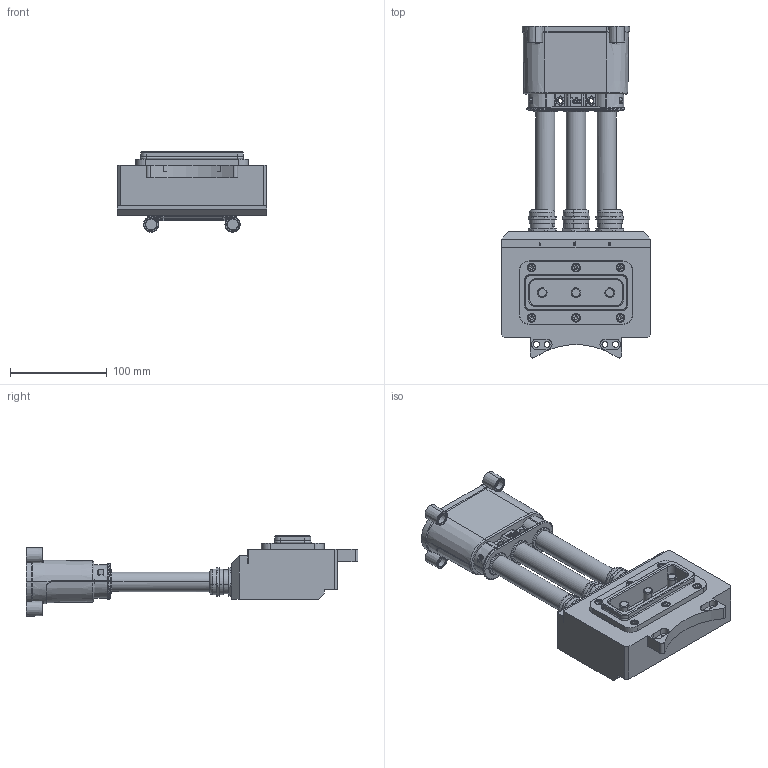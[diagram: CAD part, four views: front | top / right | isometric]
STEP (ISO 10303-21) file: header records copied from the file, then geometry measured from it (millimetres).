
FILE_DESCRIPTION (( 'STEP AP203' ), '1' );
FILE_NAME ('QCSM-03G.STEP', '2024-08-27T08:05:12', ( 'Windows 蚚誧' ), ( 'Organization' ), 'SwSTEP 2.0', 'SolidWorks 2018', '' );
FILE_SCHEMA (( 'CONFIG_CONTROL_DESIGN' ));
Length unit declared in the file: millimetre
Products named in the file (1): QCSM-03G
Bounding box: 155 x 343.95 x 83.19 mm (x, y, z)
Volume: 1212996.9 mm3; surface area: 237564 mm2
Topology: 3 solids, 3 shells, 2879 faces, 7256 edges, 4546 vertices
Faces by surface type: plane 1287, bspline 665, cylinder 552, cone 332, torus 43
Entity records: 112847 total; most frequent: CARTESIAN_POINT 48886, ORIENTED_EDGE 14428, DIRECTION 11423, EDGE_CURVE 7214, VERTEX_POINT 4546, AXIS2_PLACEMENT_3D 3817, VECTOR 3789, LINE 3789
